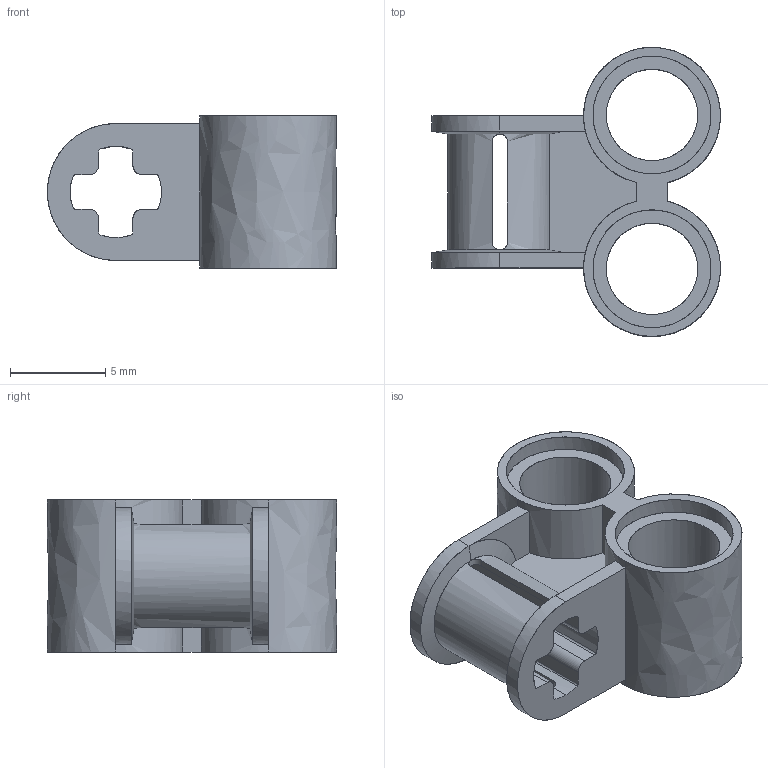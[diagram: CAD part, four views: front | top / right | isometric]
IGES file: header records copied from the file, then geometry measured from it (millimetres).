
Start section: C
Global section: file name: Black_4140430_AVV.iges; native system: By Siemens PLM Incorporated; preprocessor: XPlus GENERIC/IGES 26.1.183; author: Author; organization: Title; date: 20250721.234538; units: millimetre
Bounding box: 15.19 x 15.2 x 8 mm (x, y, z)
Surface area: 1092.4 mm2 (no closed solid volume)
Topology: 0 solids, 0 shells, 75 faces, 432 edges, 432 vertices
Faces by surface type: bspline 75
